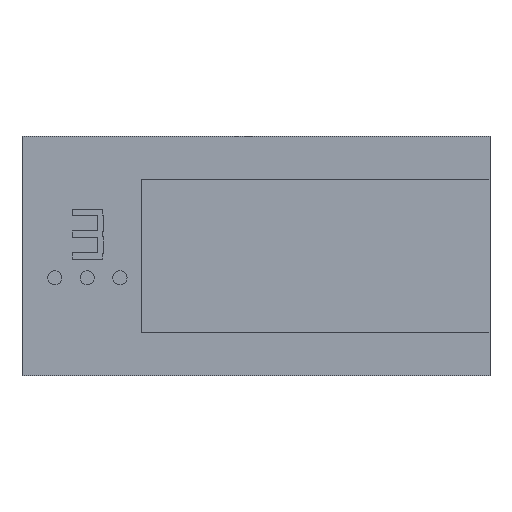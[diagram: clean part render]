
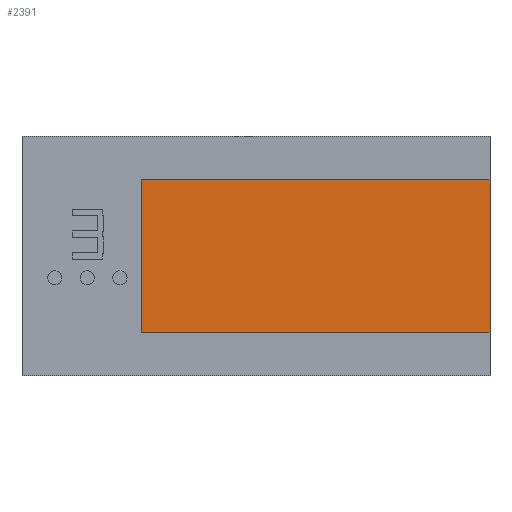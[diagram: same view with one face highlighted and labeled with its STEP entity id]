
A CAD part, top view. The second image highlights one B-rep face of the part: STEP entity #2391.
In plain terms, the highlighted planar face has unit normal (0, 0, 1).
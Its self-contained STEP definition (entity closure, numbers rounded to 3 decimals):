
#44 = PLANE('',#45);
#45 = AXIS2_PLACEMENT_3D('',#46,#47,#48);
#46 = CARTESIAN_POINT('',(-16.,-11.,0.));
#47 = DIRECTION('',(1.,0.,-0.));
#48 = DIRECTION('',(0.,0.,1.));
#71 = PLANE('',#72);
#72 = AXIS2_PLACEMENT_3D('',#73,#74,#75);
#73 = CARTESIAN_POINT('',(-16.,4.,3.));
#74 = DIRECTION('',(0.,-0.707,0.707));
#75 = DIRECTION('',(0.,0.707,0.707));
#99 = PLANE('',#100);
#100 = AXIS2_PLACEMENT_3D('',#101,#102,#103);
#101 = CARTESIAN_POINT('',(16.,-11.,0.));
#102 = DIRECTION('',(1.,0.,-0.));
#103 = DIRECTION('',(0.,0.,1.));
#232 = PLANE('',#233);
#233 = AXIS2_PLACEMENT_3D('',#234,#235,#236);
#234 = CARTESIAN_POINT('',(-16.,-7.,6.));
#235 = DIRECTION('',(-0.,0.707,0.707));
#236 = DIRECTION('',(0.,0.707,-0.707));
#863 = VERTEX_POINT('',#864);
#864 = CARTESIAN_POINT('',(-16.,-7.,6.));
#887 = VERTEX_POINT('',#888);
#888 = CARTESIAN_POINT('',(-16.,7.,6.));
#909 = EDGE_CURVE('',#887,#863,#910,.T.);
#910 = SURFACE_CURVE('',#911,(#915,#922),.PCURVE_S1.);
#911 = LINE('',#912,#913);
#912 = CARTESIAN_POINT('',(-16.,7.,6.));
#913 = VECTOR('',#914,1.);
#914 = DIRECTION('',(0.,-1.,0.));
#915 = PCURVE('',#44,#916);
#916 = DEFINITIONAL_REPRESENTATION('',(#917),#921);
#917 = LINE('',#918,#919);
#918 = CARTESIAN_POINT('',(6.,-18.));
#919 = VECTOR('',#920,1.);
#920 = DIRECTION('',(0.,1.));
#921 = ( GEOMETRIC_REPRESENTATION_CONTEXT(2) 
PARAMETRIC_REPRESENTATION_CONTEXT() REPRESENTATION_CONTEXT('2D SPACE',''
  ) );
#922 = PCURVE('',#923,#928);
#923 = PLANE('',#924);
#924 = AXIS2_PLACEMENT_3D('',#925,#926,#927);
#925 = CARTESIAN_POINT('',(-16.,7.,6.));
#926 = DIRECTION('',(0.,0.,-1.));
#927 = DIRECTION('',(0.,-1.,0.));
#928 = DEFINITIONAL_REPRESENTATION('',(#929),#933);
#929 = LINE('',#930,#931);
#930 = CARTESIAN_POINT('',(0.,-0.));
#931 = VECTOR('',#932,1.);
#932 = DIRECTION('',(1.,0.));
#933 = ( GEOMETRIC_REPRESENTATION_CONTEXT(2) 
PARAMETRIC_REPRESENTATION_CONTEXT() REPRESENTATION_CONTEXT('2D SPACE',''
  ) );
#940 = VERTEX_POINT('',#941);
#941 = CARTESIAN_POINT('',(16.,7.,6.));
#962 = EDGE_CURVE('',#887,#940,#963,.T.);
#963 = SURFACE_CURVE('',#964,(#968,#975),.PCURVE_S1.);
#964 = LINE('',#965,#966);
#965 = CARTESIAN_POINT('',(-16.,7.,6.));
#966 = VECTOR('',#967,1.);
#967 = DIRECTION('',(1.,0.,0.));
#968 = PCURVE('',#71,#969);
#969 = DEFINITIONAL_REPRESENTATION('',(#970),#974);
#970 = LINE('',#971,#972);
#971 = CARTESIAN_POINT('',(4.243,0.));
#972 = VECTOR('',#973,1.);
#973 = DIRECTION('',(0.,-1.));
#974 = ( GEOMETRIC_REPRESENTATION_CONTEXT(2) 
PARAMETRIC_REPRESENTATION_CONTEXT() REPRESENTATION_CONTEXT('2D SPACE',''
  ) );
#975 = PCURVE('',#923,#976);
#976 = DEFINITIONAL_REPRESENTATION('',(#977),#981);
#977 = LINE('',#978,#979);
#978 = CARTESIAN_POINT('',(0.,-0.));
#979 = VECTOR('',#980,1.);
#980 = DIRECTION('',(0.,-1.));
#981 = ( GEOMETRIC_REPRESENTATION_CONTEXT(2) 
PARAMETRIC_REPRESENTATION_CONTEXT() REPRESENTATION_CONTEXT('2D SPACE',''
  ) );
#987 = EDGE_CURVE('',#863,#988,#990,.T.);
#988 = VERTEX_POINT('',#989);
#989 = CARTESIAN_POINT('',(16.,-7.,6.));
#990 = SURFACE_CURVE('',#991,(#995,#1002),.PCURVE_S1.);
#991 = LINE('',#992,#993);
#992 = CARTESIAN_POINT('',(-16.,-7.,6.));
#993 = VECTOR('',#994,1.);
#994 = DIRECTION('',(1.,0.,0.));
#995 = PCURVE('',#232,#996);
#996 = DEFINITIONAL_REPRESENTATION('',(#997),#1001);
#997 = LINE('',#998,#999);
#998 = CARTESIAN_POINT('',(0.,0.));
#999 = VECTOR('',#1000,1.);
#1000 = DIRECTION('',(0.,-1.));
#1001 = ( GEOMETRIC_REPRESENTATION_CONTEXT(2) 
PARAMETRIC_REPRESENTATION_CONTEXT() REPRESENTATION_CONTEXT('2D SPACE',''
  ) );
#1002 = PCURVE('',#923,#1003);
#1003 = DEFINITIONAL_REPRESENTATION('',(#1004),#1008);
#1004 = LINE('',#1005,#1006);
#1005 = CARTESIAN_POINT('',(14.,0.));
#1006 = VECTOR('',#1007,1.);
#1007 = DIRECTION('',(0.,-1.));
#1008 = ( GEOMETRIC_REPRESENTATION_CONTEXT(2) 
PARAMETRIC_REPRESENTATION_CONTEXT() REPRESENTATION_CONTEXT('2D SPACE',''
  ) );
#1110 = EDGE_CURVE('',#940,#988,#1111,.T.);
#1111 = SURFACE_CURVE('',#1112,(#1116,#1123),.PCURVE_S1.);
#1112 = LINE('',#1113,#1114);
#1113 = CARTESIAN_POINT('',(16.,7.,6.));
#1114 = VECTOR('',#1115,1.);
#1115 = DIRECTION('',(0.,-1.,0.));
#1116 = PCURVE('',#99,#1117);
#1117 = DEFINITIONAL_REPRESENTATION('',(#1118),#1122);
#1118 = LINE('',#1119,#1120);
#1119 = CARTESIAN_POINT('',(6.,-18.));
#1120 = VECTOR('',#1121,1.);
#1121 = DIRECTION('',(0.,1.));
#1122 = ( GEOMETRIC_REPRESENTATION_CONTEXT(2) 
PARAMETRIC_REPRESENTATION_CONTEXT() REPRESENTATION_CONTEXT('2D SPACE',''
  ) );
#1123 = PCURVE('',#923,#1124);
#1124 = DEFINITIONAL_REPRESENTATION('',(#1125),#1129);
#1125 = LINE('',#1126,#1127);
#1126 = CARTESIAN_POINT('',(0.,-32.));
#1127 = VECTOR('',#1128,1.);
#1128 = DIRECTION('',(1.,0.));
#1129 = ( GEOMETRIC_REPRESENTATION_CONTEXT(2) 
PARAMETRIC_REPRESENTATION_CONTEXT() REPRESENTATION_CONTEXT('2D SPACE',''
  ) );
#2391 = ADVANCED_FACE('',(#2392),#923,.F.);
#2392 = FACE_BOUND('',#2393,.F.);
#2393 = EDGE_LOOP('',(#2394,#2395,#2396,#2397));
#2394 = ORIENTED_EDGE('',*,*,#962,.T.);
#2395 = ORIENTED_EDGE('',*,*,#1110,.T.);
#2396 = ORIENTED_EDGE('',*,*,#987,.F.);
#2397 = ORIENTED_EDGE('',*,*,#909,.F.);
